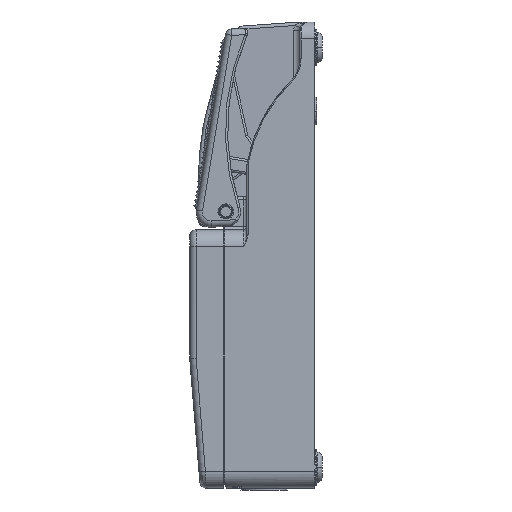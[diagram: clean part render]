
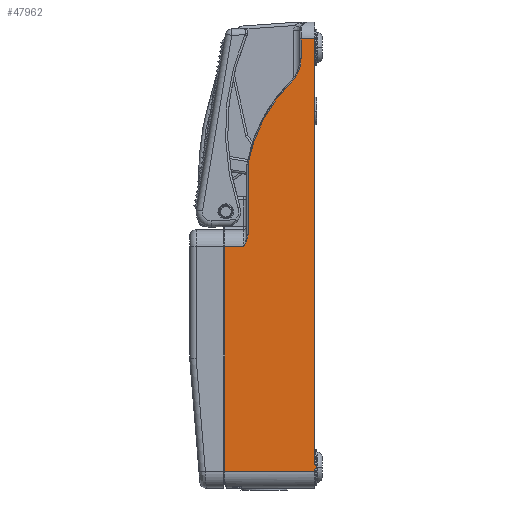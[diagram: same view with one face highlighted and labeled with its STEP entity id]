
A CAD part, left-side view. The second image highlights one B-rep face of the part: STEP entity #47962.
In plain terms, the highlighted planar face has unit normal (-1, 0, 0).
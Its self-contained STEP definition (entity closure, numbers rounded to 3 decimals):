
#5460=CARTESIAN_POINT('',(-95.,-0.533,-209.272));
#5461=CARTESIAN_POINT('',(-95.,-0.536,-209.275));
#5462=CARTESIAN_POINT('',(-95.,-0.543,-209.28));
#5463=CARTESIAN_POINT('',(-95.,-0.552,-209.291));
#5464=CARTESIAN_POINT('',(-95.,-0.561,-209.303));
#5465=CARTESIAN_POINT('',(-95.,-0.57,-209.318));
#5466=CARTESIAN_POINT('',(-95.,-0.579,-209.335));
#5467=CARTESIAN_POINT('',(-95.,-0.588,-209.354));
#5468=CARTESIAN_POINT('',(-95.,-0.596,-209.376));
#5469=CARTESIAN_POINT('',(-95.,-0.605,-209.4));
#5470=CARTESIAN_POINT('',(-95.,-0.613,-209.427));
#5471=CARTESIAN_POINT('',(-95.,-0.621,-209.456));
#5472=CARTESIAN_POINT('',(-95.,-0.629,-209.489));
#5473=CARTESIAN_POINT('',(-95.,-0.637,-209.526));
#5474=CARTESIAN_POINT('',(-95.,-0.644,-209.566));
#5475=CARTESIAN_POINT('',(-95.,-0.651,-209.61));
#5476=CARTESIAN_POINT('',(-95.,-0.658,-209.659));
#5477=CARTESIAN_POINT('',(-95.,-0.663,-209.713));
#5478=CARTESIAN_POINT('',(-95.,-0.669,-209.773));
#5479=CARTESIAN_POINT('',(-95.,-0.673,-209.838));
#5480=CARTESIAN_POINT('',(-95.,-0.676,-209.911));
#5481=CARTESIAN_POINT('',(-95.,-0.677,-209.994));
#5482=CARTESIAN_POINT('',(-95.,-0.676,-210.078));
#5483=CARTESIAN_POINT('',(-95.,-0.673,-210.157));
#5484=CARTESIAN_POINT('',(-95.,-0.669,-210.227));
#5485=CARTESIAN_POINT('',(-95.,-0.663,-210.287));
#5486=CARTESIAN_POINT('',(-95.,-0.658,-210.341));
#5487=CARTESIAN_POINT('',(-95.,-0.651,-210.39));
#5488=CARTESIAN_POINT('',(-95.,-0.644,-210.434));
#5489=CARTESIAN_POINT('',(-95.,-0.637,-210.475));
#5490=CARTESIAN_POINT('',(-95.,-0.629,-210.511));
#5491=CARTESIAN_POINT('',(-95.,-0.621,-210.544));
#5492=CARTESIAN_POINT('',(-95.,-0.613,-210.573));
#5493=CARTESIAN_POINT('',(-95.,-0.605,-210.6));
#5494=CARTESIAN_POINT('',(-95.,-0.596,-210.624));
#5495=CARTESIAN_POINT('',(-95.,-0.588,-210.646));
#5496=CARTESIAN_POINT('',(-95.,-0.579,-210.665));
#5497=CARTESIAN_POINT('',(-95.,-0.57,-210.682));
#5498=CARTESIAN_POINT('',(-95.,-0.561,-210.697));
#5499=CARTESIAN_POINT('',(-95.,-0.552,-210.709));
#5500=CARTESIAN_POINT('',(-95.,-0.543,-210.72));
#5501=CARTESIAN_POINT('',(-95.,-0.536,-210.725));
#5502=CARTESIAN_POINT('',(-95.,-0.533,-210.728));
#5507=DIRECTION('',(0.,0.,-1.));
#5508=VECTOR('',#5507,0.933);
#5509=CARTESIAN_POINT('',(-95.,0.,-211.067));
#5510=LINE('',#5509,#5508);
#5514=DIRECTION('',(0.,0.,1.));
#5515=VECTOR('',#5514,106.);
#5516=CARTESIAN_POINT('',(-95.,42.5,-212.));
#5517=LINE('',#5516,#5515);
#5521=DIRECTION('',(0.,1.,0.));
#5522=VECTOR('',#5521,9.);
#5523=CARTESIAN_POINT('',(-95.,33.5,-106.));
#5524=LINE('',#5523,#5522);
#5528=CARTESIAN_POINT('',(-95.,33.5,-106.));
#5529=CARTESIAN_POINT('',(-95.,33.356,-105.721));
#5530=CARTESIAN_POINT('',(-95.,33.081,-105.188));
#5531=CARTESIAN_POINT('',(-95.,32.72,-104.458));
#5532=CARTESIAN_POINT('',(-95.,32.419,-103.806));
#5533=CARTESIAN_POINT('',(-95.,32.176,-103.224));
#5534=CARTESIAN_POINT('',(-95.,31.984,-102.708));
#5535=CARTESIAN_POINT('',(-95.,31.835,-102.248));
#5536=CARTESIAN_POINT('',(-95.,31.72,-101.83));
#5537=CARTESIAN_POINT('',(-95.,31.633,-101.447));
#5538=CARTESIAN_POINT('',(-95.,31.571,-101.092));
#5539=CARTESIAN_POINT('',(-95.,31.529,-100.762));
#5540=CARTESIAN_POINT('',(-95.,31.505,-100.455));
#5541=CARTESIAN_POINT('',(-95.,31.5,
-100.262));
#5542=CARTESIAN_POINT('',(-95.,31.5,-100.169));
#5547=DIRECTION('',(0.,0.,1.));
#5548=VECTOR('',#5547,33.125);
#5549=CARTESIAN_POINT('',(-95.,31.5,-100.169));
#5550=LINE('',#5549,#5548);
#5554=CARTESIAN_POINT('',(-95.,-38.907,-79.5));
#5555=DIRECTION('',(-1.,0.,0.));
#5556=DIRECTION('',(0.,0.7,0.714));
#5557=AXIS2_PLACEMENT_3D('',#5554,#5555,#5556);
#5562=CARTESIAN_POINT('',(-95.,22.,-17.376));
#5563=DIRECTION('',(1.,0.,0.));
#5564=DIRECTION('',(0.,-1.,0.));
#5565=AXIS2_PLACEMENT_3D('',#5562,#5563,#5564);
#5570=DIRECTION('',(0.,0.,-1.));
#5571=VECTOR('',#5570,9.376);
#5572=CARTESIAN_POINT('',(-95.,6.5,-8.));
#5573=LINE('',#5572,#5571);
#5577=DIRECTION('',(0.,-1.,0.));
#5578=VECTOR('',#5577,6.5);
#5579=CARTESIAN_POINT('',(-95.,6.5,-8.));
#5580=LINE('',#5579,#5578);
#5584=DIRECTION('',(0.,0.,-1.));
#5585=VECTOR('',#5584,200.933);
#5586=CARTESIAN_POINT('',(-95.,0.,-8.));
#5587=LINE('',#5586,#5585);
#5617=CARTESIAN_POINT('',(-95.,0.,-211.067));
#5618=CARTESIAN_POINT('',(-95.,-0.056,-211.037));
#5619=CARTESIAN_POINT('',(-95.,-0.162,-210.977));
#5620=CARTESIAN_POINT('',(-95.,-0.304,-210.891));
#5621=CARTESIAN_POINT('',(-95.,-0.429,-210.807));
#5622=CARTESIAN_POINT('',(-95.,-0.5,-210.754));
#5623=CARTESIAN_POINT('',(-95.,-0.533,-210.728));
#5652=CARTESIAN_POINT('',(-95.,-0.533,-209.272));
#5653=CARTESIAN_POINT('',(-95.,-0.5,-209.246));
#5654=CARTESIAN_POINT('',(-95.,-0.429,-209.193));
#5655=CARTESIAN_POINT('',(-95.,-0.304,-209.109));
#5656=CARTESIAN_POINT('',(-95.,-0.162,-209.023));
#5657=CARTESIAN_POINT('',(-95.,-0.056,-208.963));
#5658=CARTESIAN_POINT('',(-95.,0.,-208.933));
#6915=DIRECTION('',(0.,-1.,0.));
#6916=VECTOR('',#6915,42.5);
#6917=CARTESIAN_POINT('',(-95.,42.5,-212.));
#6918=LINE('',#6917,#6916);
#16229=CARTESIAN_POINT('',(-95.,33.5,-106.));
#42124=CARTESIAN_POINT('',(-95.,0.,-211.067));
#42125=CARTESIAN_POINT('',(-95.,0.,-212.));
#42126=VERTEX_POINT('',#42124);
#42127=VERTEX_POINT('',#42125);
#42424=CARTESIAN_POINT('',(-95.,0.,-8.));
#42426=VERTEX_POINT('',#42424);
#42427=CARTESIAN_POINT('',(-95.,0.,-208.933));
#42428=VERTEX_POINT('',#42427);
#42457=VERTEX_POINT('',#16229);
#42459=VERTEX_POINT('',#5542);
#42460=CARTESIAN_POINT('',(-95.,31.5,-67.044));
#42461=VERTEX_POINT('',#42460);
#42467=CARTESIAN_POINT('',(-95.,6.5,-8.));
#42468=VERTEX_POINT('',#42467);
#42471=CARTESIAN_POINT('',(-95.,6.5,-17.376));
#42472=VERTEX_POINT('',#42471);
#42475=CARTESIAN_POINT('',(-95.,11.149,-28.444));
#42476=VERTEX_POINT('',#42475);
#42604=CARTESIAN_POINT('',(-95.,42.5,-106.));
#42605=VERTEX_POINT('',#42604);
#42606=CARTESIAN_POINT('',(-95.,42.5,-212.));
#42607=VERTEX_POINT('',#42606);
#43783=VERTEX_POINT('',#5460);
#43784=VERTEX_POINT('',#5502);
#47930=CARTESIAN_POINT('',(-95.,0.,0.));
#47931=DIRECTION('',(1.,0.,0.));
#47932=DIRECTION('',(0.,-1.,0.));
#47933=AXIS2_PLACEMENT_3D('',#47930,#47931,#47932);
#47934=PLANE('',#47933);
#47936=ORIENTED_EDGE('',*,*,#47935,.T.);
#47938=ORIENTED_EDGE('',*,*,#47937,.F.);
#47939=ORIENTED_EDGE('',*,*,#45396,.T.);
#47941=ORIENTED_EDGE('',*,*,#47940,.F.);
#47943=ORIENTED_EDGE('',*,*,#47942,.T.);
#47945=ORIENTED_EDGE('',*,*,#47944,.F.);
#47947=ORIENTED_EDGE('',*,*,#47946,.T.);
#47949=ORIENTED_EDGE('',*,*,#47948,.T.);
#47951=ORIENTED_EDGE('',*,*,#47950,.F.);
#47953=ORIENTED_EDGE('',*,*,#47952,.F.);
#47955=ORIENTED_EDGE('',*,*,#47954,.F.);
#47956=ORIENTED_EDGE('',*,*,#47911,.T.);
#47957=ORIENTED_EDGE('',*,*,#45420,.T.);
#47959=ORIENTED_EDGE('',*,*,#47958,.F.);
#47960=EDGE_LOOP('',(#47936,#47938,#47939,#47941,#47943,#47945,#47947,#47949,
#47951,#47953,#47955,#47956,#47957,#47959));
#47961=FACE_OUTER_BOUND('',#47960,.F.);
#5503=B_SPLINE_CURVE_WITH_KNOTS('',3,(#5460,#5461,#5462,#5463,#5464,#5465,#5466,
#5467,#5468,#5469,#5470,#5471,#5472,#5473,#5474,#5475,#5476,#5477,#5478,#5479,
#5480,#5481,#5482,#5483,#5484,#5485,#5486,#5487,#5488,#5489,#5490,#5491,#5492,
#5493,#5494,#5495,#5496,#5497,#5498,#5499,#5500,#5501,#5502),.UNSPECIFIED.,.F.,
.F.,(4,1,1,1,1,1,1,1,1,1,1,1,1,1,1,1,1,1,1,1,1,1,1,1,1,1,1,1,1,1,1,1,1,1,1,1,1,
1,1,1,4),(0.,0.025,0.05,0.075,0.1,0.125,0.15,0.175,0.2,0.225,
0.25,0.275,0.3,0.325,0.35,0.375,0.4,0.425,0.45,0.475,0.5,
0.525,0.55,0.575,0.6,0.625,0.65,0.675,0.7,0.725,0.75,
0.775,0.8,0.825,0.85,0.875,0.9,0.925,0.95,0.975,1.),
.UNSPECIFIED.);
#5543=B_SPLINE_CURVE_WITH_KNOTS('',3,(#5528,#5529,#5530,#5531,#5532,#5533,#5534,
#5535,#5536,#5537,#5538,#5539,#5540,#5541,#5542),.UNSPECIFIED.,.F.,.F.,(4,1,1,1,
1,1,1,1,1,1,1,1,4),(0.,0.083,0.167,0.25,
0.333,0.417,0.5,0.583,0.667,
0.75,0.833,0.917,1.),.UNSPECIFIED.);
#5558=CIRCLE('',#5557,71.5);
#5566=CIRCLE('',#5565,15.5);
#5624=B_SPLINE_CURVE_WITH_KNOTS('',3,(#5617,#5618,#5619,#5620,#5621,#5622,
#5623),.UNSPECIFIED.,.F.,.F.,(4,1,1,1,4),(0.,0.25,0.5,0.75,1.),
.UNSPECIFIED.);
#5659=B_SPLINE_CURVE_WITH_KNOTS('',3,(#5652,#5653,#5654,#5655,#5656,#5657,
#5658),.UNSPECIFIED.,.F.,.F.,(4,1,1,1,4),(0.,0.25,0.5,0.75,1.),
.UNSPECIFIED.);
#45396=EDGE_CURVE('',#42126,#42127,#5510,.T.);
#45420=EDGE_CURVE('',#42426,#42428,#5587,.T.);
#47911=EDGE_CURVE('',#42468,#42426,#5580,.T.);
#47935=EDGE_CURVE('',#43783,#43784,#5503,.T.);
#47937=EDGE_CURVE('',#42126,#43784,#5624,.T.);
#47940=EDGE_CURVE('',#42607,#42127,#6918,.T.);
#47942=EDGE_CURVE('',#42607,#42605,#5517,.T.);
#47944=EDGE_CURVE('',#42457,#42605,#5524,.T.);
#47946=EDGE_CURVE('',#42457,#42459,#5543,.T.);
#47948=EDGE_CURVE('',#42459,#42461,#5550,.T.);
#47950=EDGE_CURVE('',#42476,#42461,#5558,.T.);
#47952=EDGE_CURVE('',#42472,#42476,#5566,.T.);
#47954=EDGE_CURVE('',#42468,#42472,#5573,.T.);
#47958=EDGE_CURVE('',#43783,#42428,#5659,.T.);
#47962=ADVANCED_FACE('',(#47961),#47934,.F.);
